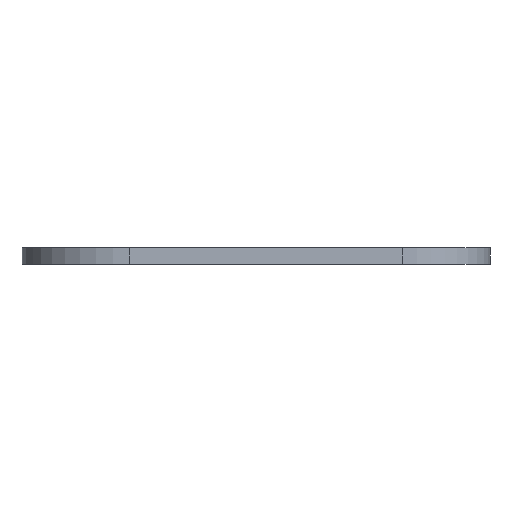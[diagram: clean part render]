
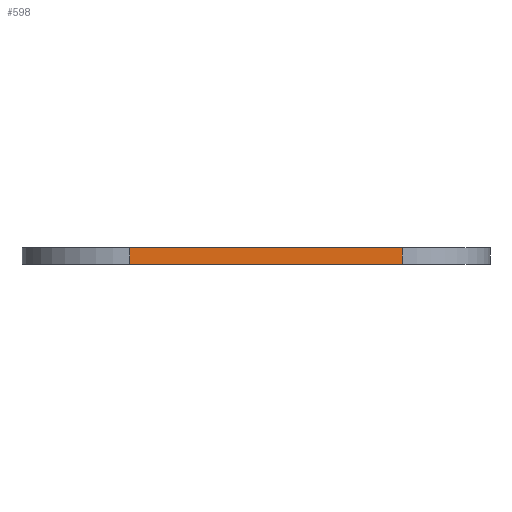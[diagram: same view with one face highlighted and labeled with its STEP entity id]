
A CAD part, front view. The second image highlights one B-rep face of the part: STEP entity #598.
In plain terms, the highlighted planar face has unit normal (0.035, -0.999, 0).
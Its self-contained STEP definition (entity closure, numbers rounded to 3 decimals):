
#23 = VERTEX_POINT ( 'NONE', #800 ) ;
#64 = CARTESIAN_POINT ( 'NONE',  ( 35.74, -33., 0. ) ) ;
#120 = CARTESIAN_POINT ( 'NONE',  ( 1.721, -34.188, 0. ) ) ;
#138 = VECTOR ( 'NONE', #1715, 1000. ) ;
#185 = DIRECTION ( 'NONE',  ( 0., 0., -1. ) ) ;
#239 = LINE ( 'NONE', #120, #138 ) ;
#255 = VECTOR ( 'NONE', #185, 1000. ) ;
#316 = DIRECTION ( 'NONE',  ( 0.999, 0.035, 0. ) ) ;
#323 = CARTESIAN_POINT ( 'NONE',  ( 35.74, -33., 2. ) ) ;
#516 = DIRECTION ( 'NONE',  ( 0.999, 0.035, 0. ) ) ;
#540 = EDGE_CURVE ( 'NONE', #1649, #697, #1266, .T. ) ;
#598 = ADVANCED_FACE ( 'NONE', ( #1413 ), #1251, .T. ) ;
#649 = VECTOR ( 'NONE', #797, 1000. ) ;
#697 = VERTEX_POINT ( 'NONE', #1192 ) ;
#796 = EDGE_CURVE ( 'NONE', #23, #1055, #239, .T. ) ;
#797 = DIRECTION ( 'NONE',  ( 0.999, 0.035, 0. ) ) ;
#800 = CARTESIAN_POINT ( 'NONE',  ( 1.721, -34.188, 2. ) ) ;
#815 = AXIS2_PLACEMENT_3D ( 'NONE', #64, #1121, #316 ) ;
#1027 = ORIENTED_EDGE ( 'NONE', *, *, #540, .F. ) ;
#1033 = LINE ( 'NONE', #1155, #649 ) ;
#1055 = VERTEX_POINT ( 'NONE', #1126 ) ;
#1100 = EDGE_CURVE ( 'NONE', #1055, #697, #1557, .T. ) ;
#1102 = ORIENTED_EDGE ( 'NONE', *, *, #796, .T. ) ;
#1121 = DIRECTION ( 'NONE',  ( 0.035, -0.999, 0. ) ) ;
#1126 = CARTESIAN_POINT ( 'NONE',  ( 1.721, -34.188, 0. ) ) ;
#1155 = CARTESIAN_POINT ( 'NONE',  ( 35.74, -33., 2. ) ) ;
#1192 = CARTESIAN_POINT ( 'NONE',  ( 35.74, -33., 0. ) ) ;
#1214 = EDGE_CURVE ( 'NONE', #23, #1649, #1033, .T. ) ;
#1240 = ORIENTED_EDGE ( 'NONE', *, *, #1214, .F. ) ;
#1251 = PLANE ( 'NONE',  #815 ) ;
#1266 = LINE ( 'NONE', #323, #255 ) ;
#1306 = EDGE_LOOP ( 'NONE', ( #1240, #1102, #1533, #1027 ) ) ;
#1324 = CARTESIAN_POINT ( 'NONE',  ( 35.74, -33., 0. ) ) ;
#1413 = FACE_OUTER_BOUND ( 'NONE', #1306, .T. ) ;
#1472 = CARTESIAN_POINT ( 'NONE',  ( 35.74, -33., 2. ) ) ;
#1533 = ORIENTED_EDGE ( 'NONE', *, *, #1100, .T. ) ;
#1557 = LINE ( 'NONE', #1324, #1596 ) ;
#1596 = VECTOR ( 'NONE', #516, 1000. ) ;
#1649 = VERTEX_POINT ( 'NONE', #1472 ) ;
#1715 = DIRECTION ( 'NONE',  ( 0., 0., -1. ) ) ;
